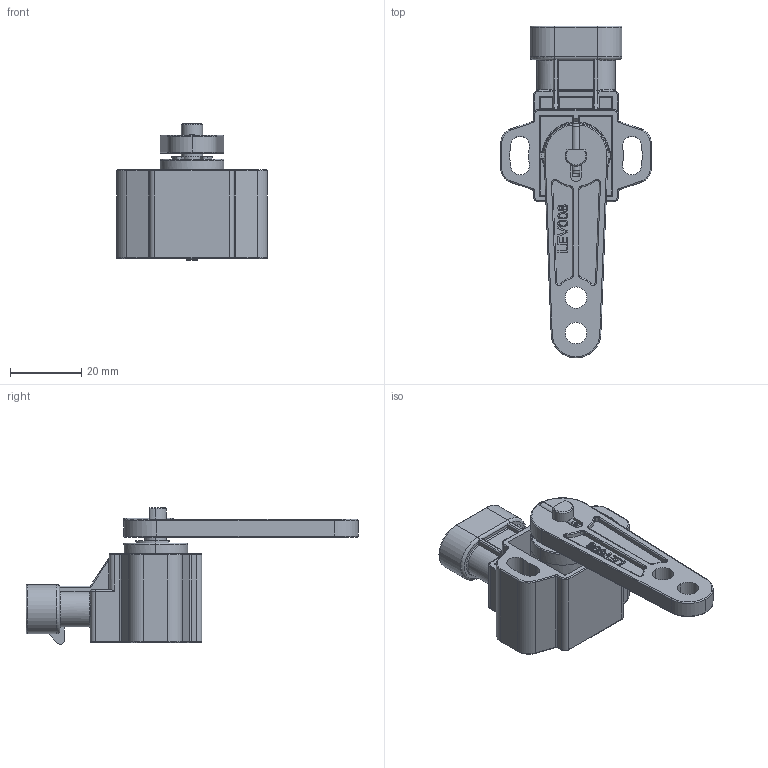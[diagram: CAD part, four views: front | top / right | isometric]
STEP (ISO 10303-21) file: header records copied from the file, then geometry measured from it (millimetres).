
FILE_DESCRIPTION (( 'STEP AP203' ), '1' );
FILE_NAME ('GR3PA S3E2MS xxx xxxx B0.STEP', '2024-12-19T14:17:51', ( '' ), ( '' ), 'SwSTEP 2.0', 'SolidWorks 2024', '' );
FILE_SCHEMA (( 'CONFIG_CONTROL_DESIGN' ));
Length unit declared in the file: millimetre
Products named in the file (1): GR3PA S3E2MS xxx xxxx B0
Bounding box: 42.5 x 93.5 x 38.47 mm (x, y, z)
Volume: 26471.9 mm3; surface area: 15360.8 mm2
Topology: 9 solids, 9 shells, 723 faces, 1766 edges, 1072 vertices
Faces by surface type: cylinder 259, plane 238, torus 84, bspline 81, cone 34, sphere 27
Entity records: 26065 total; most frequent: CARTESIAN_POINT 9366, ORIENTED_EDGE 3488, DIRECTION 3456, EDGE_CURVE 1744, AXIS2_PLACEMENT_3D 1307, VERTEX_POINT 1072, LINE 842, VECTOR 842
